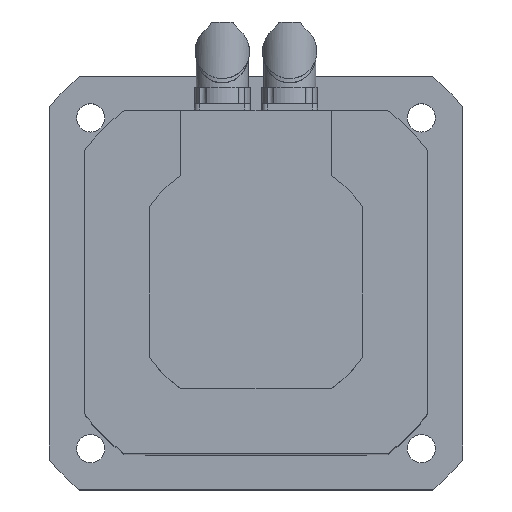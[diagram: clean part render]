
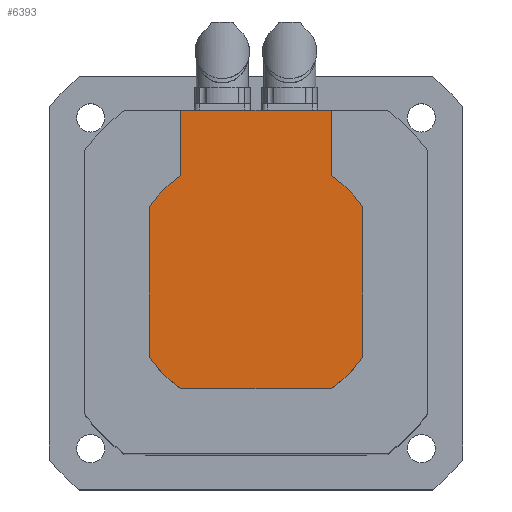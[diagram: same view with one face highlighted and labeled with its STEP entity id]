
A CAD part, top view. The second image highlights one B-rep face of the part: STEP entity #6393.
In plain terms, the highlighted planar face has unit normal (0, 0, 1).
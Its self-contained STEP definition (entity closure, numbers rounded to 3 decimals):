
#6141=CARTESIAN_POINT('',(-49.,-34.627,45.0));
#6142=VERTEX_POINT('',#6141);
#6149=CARTESIAN_POINT('',(-49.,34.627,45.0));
#6150=VERTEX_POINT('',#6149);
#6151=CARTESIAN_POINT('',(-49.,34.627,45.0));
#6152=DIRECTION('',(0.0,-1.0,0.0));
#6153=VECTOR('',#6152,69.253);
#6154=LINE('',#6151,#6153);
#6155=EDGE_CURVE('',#6150,#6142,#6154,.T.);
#6174=CARTESIAN_POINT('',(49.0,34.627,45.0));
#6175=VERTEX_POINT('',#6174);
#6182=CARTESIAN_POINT('',(49.0,-34.627,45.0));
#6183=VERTEX_POINT('',#6182);
#6184=CARTESIAN_POINT('',(49.0,-34.627,45.0));
#6185=DIRECTION('',(0.0,1.0,0.0));
#6186=VECTOR('',#6185,69.253);
#6187=LINE('',#6184,#6186);
#6188=EDGE_CURVE('',#6183,#6175,#6187,.T.);
#6211=CARTESIAN_POINT('',(34.627,-49.,45.0));
#6212=VERTEX_POINT('',#6211);
#6219=CARTESIAN_POINT('',(-34.627,-49.,45.0));
#6220=VERTEX_POINT('',#6219);
#6221=CARTESIAN_POINT('',(-34.627,-49.,45.0));
#6222=DIRECTION('',(1.0,0.0,0.0));
#6223=VECTOR('',#6222,69.253);
#6224=LINE('',#6221,#6223);
#6225=EDGE_CURVE('',#6220,#6212,#6224,.T.);
#6243=CARTESIAN_POINT('',(0.0,0.0,45.0));
#6244=DIRECTION('',(0.0,0.0,-1.0));
#6245=DIRECTION('',(-1.0,0.0,0.0));
#6246=AXIS2_PLACEMENT_3D('',#6243,#6244,#6245);
#6247=CIRCLE('',#6246,60.0);
#6248=EDGE_CURVE('',#6183,#6212,#6247,.T.);
#6262=CARTESIAN_POINT('',(34.627,49.0,45.0));
#6263=VERTEX_POINT('',#6262);
#6270=CARTESIAN_POINT('',(0.0,0.0,45.0));
#6271=DIRECTION('',(0.0,0.0,-1.0));
#6272=DIRECTION('',(-1.0,0.0,0.0));
#6273=AXIS2_PLACEMENT_3D('',#6270,#6271,#6272);
#6274=CIRCLE('',#6273,60.0);
#6275=EDGE_CURVE('',#6263,#6175,#6274,.T.);
#6286=CARTESIAN_POINT('',(-34.627,49.0,45.0));
#6287=VERTEX_POINT('',#6286);
#6288=CARTESIAN_POINT('',(0.0,0.0,45.0));
#6289=DIRECTION('',(0.0,0.0,-1.0));
#6290=DIRECTION('',(-1.0,0.0,0.0));
#6291=AXIS2_PLACEMENT_3D('',#6288,#6289,#6290);
#6292=CIRCLE('',#6291,60.0);
#6293=EDGE_CURVE('',#6150,#6287,#6292,.T.);
#6313=CARTESIAN_POINT('',(0.0,0.0,45.0));
#6314=DIRECTION('',(0.0,0.0,-1.0));
#6315=DIRECTION('',(-1.0,0.0,0.0));
#6316=AXIS2_PLACEMENT_3D('',#6313,#6314,#6315);
#6317=CIRCLE('',#6316,60.0);
#6318=EDGE_CURVE('',#6220,#6142,#6317,.T.);
#6330=CARTESIAN_POINT('',(-34.627,79.0,45.0));
#6331=VERTEX_POINT('',#6330);
#6332=CARTESIAN_POINT('',(-34.627,49.0,45.0));
#6333=DIRECTION('',(0.0,1.0,0.0));
#6334=VECTOR('',#6333,30.0);
#6335=LINE('',#6332,#6334);
#6336=EDGE_CURVE('',#6287,#6331,#6335,.T.);
#6352=CARTESIAN_POINT('',(34.627,79.0,45.0));
#6353=VERTEX_POINT('',#6352);
#6360=CARTESIAN_POINT('',(34.627,49.0,45.0));
#6361=DIRECTION('',(0.0,1.0,0.0));
#6362=VECTOR('',#6361,30.0);
#6363=LINE('',#6360,#6362);
#6364=EDGE_CURVE('',#6263,#6353,#6363,.T.);
#6371=CARTESIAN_POINT('',(49.,-49.,45.0));
#6372=DIRECTION('',(0.0,0.0,-1.0));
#6373=DIRECTION('',(-1.0,0.0,0.0));
#6374=AXIS2_PLACEMENT_3D('',#6371,#6372,#6373);
#6375=PLANE('',#6374);
#6376=ORIENTED_EDGE('',*,*,#6188,.T.);
#6377=ORIENTED_EDGE('',*,*,#6275,.F.);
#6378=ORIENTED_EDGE('',*,*,#6364,.T.);
#6379=CARTESIAN_POINT('',(-34.627,79.0,45.0));
#6380=DIRECTION('',(1.0,0.0,0.0));
#6381=VECTOR('',#6380,69.253);
#6382=LINE('',#6379,#6381);
#6383=EDGE_CURVE('',#6331,#6353,#6382,.T.);
#6384=ORIENTED_EDGE('',*,*,#6383,.F.);
#6385=ORIENTED_EDGE('',*,*,#6336,.F.);
#6386=ORIENTED_EDGE('',*,*,#6293,.F.);
#6387=ORIENTED_EDGE('',*,*,#6155,.T.);
#6388=ORIENTED_EDGE('',*,*,#6318,.F.);
#6389=ORIENTED_EDGE('',*,*,#6225,.T.);
#6390=ORIENTED_EDGE('',*,*,#6248,.F.);
#6391=EDGE_LOOP('',(#6376,#6377,#6378,#6384,#6385,#6386,#6387,#6388,#6389,#6390));
#6392=FACE_OUTER_BOUND('',#6391,.T.);
#6393=ADVANCED_FACE('',(#6392),#6375,.F.);
